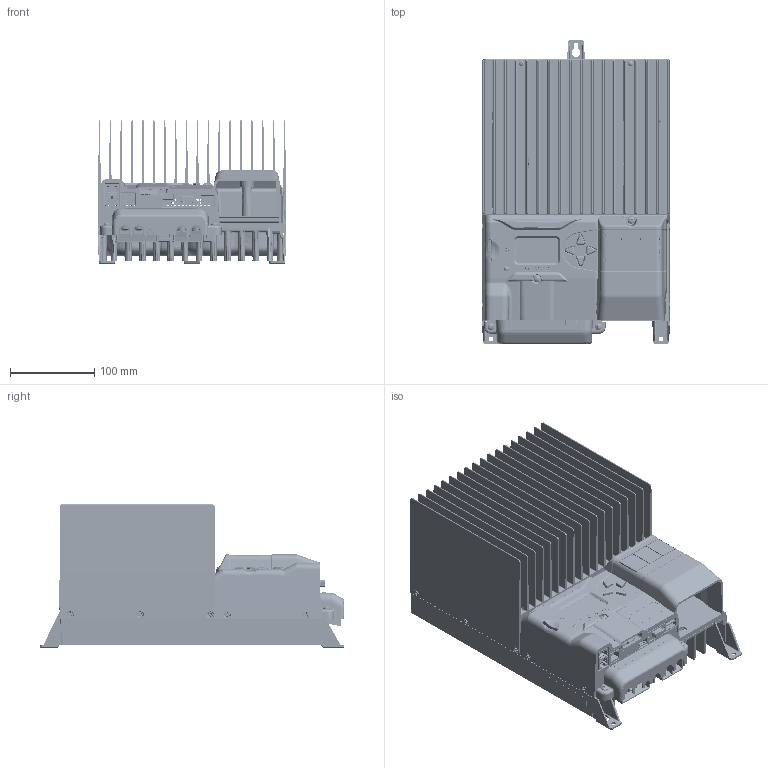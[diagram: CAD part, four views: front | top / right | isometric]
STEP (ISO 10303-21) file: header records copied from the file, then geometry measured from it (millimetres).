
FILE_DESCRIPTION(/* description */ ('Unknown'),/* implementation_level */ '2;1');
FILE_NAME(/* name */ 'GenStar Sanitized No Ready Blocks',/* time_stamp */ '2023-03-21T14:37:02-04:00',/* author */ ('Unknown'),/* organization */ ('Unknown'),/* preprocessor_version */ 'ST-DEVELOPER v16.7',/* originating_system */ 'Solid Edge',/* authorisation */ 'Unknown');
FILE_SCHEMA (('AUTOMOTIVE_DESIGN {1 0 10303 214 3 1 1}'));
Products named in the file (1): GenStar Sanitized No Ready Blocks
Bounding box: 222.62 x 360.4 x 170.2 mm (x, y, z)
Volume: 1026649.7 mm3; surface area: 1332994.9 mm2
Topology: 26 solids, 28 shells, 11208 faces, 30665 edges, 19256 vertices
Faces by surface type: plane 5114, cylinder 3030, bspline 1742, cone 512, torus 472, sphere 338
Full cylindrical faces by diameter (mm): 0.762 x4, 1 x4, 1.016 x6, 1.143 x9, 1.5 x12, 1.8 x2, 2 x4, 2.8 x392, 3 x4, 3.099 x2, 3.242 x93, 3.251 x2, 3.302 x2, 3.5 x2, 3.744 x1, 3.81 x4, 4.4 x4, 4.5 x2, 4.8 x10, 4.917 x1, 5.486 x1, 5.74 x2, 6 x39, 6.35 x2, 6.909 x1, 7.137 x1, 7.3 x10, 8 x8, 8.738 x1, 9.398 x4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
Entity records: 517249 total; most frequent: CARTESIAN_POINT 178226, ORIENTED_EDGE 58074, DIRECTION 50915, EDGE_CURVE 29043, VERTEX_POINT 18888, AXIS2_PLACEMENT_3D 17530, LINE 15855, VECTOR 15855
